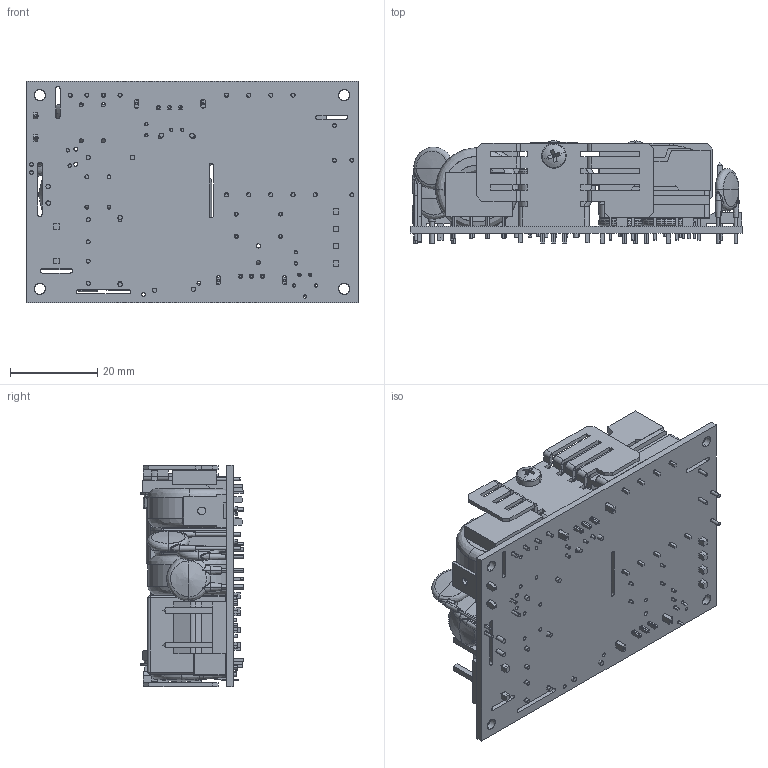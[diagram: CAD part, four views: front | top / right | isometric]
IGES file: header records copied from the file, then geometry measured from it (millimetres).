
Start section: SolidWorks IGES file using analytic representation for surfaces
Global section: file name: C:\Documents and Settings\behzar\Desktop\BEHZAR\PROJECTS\CURRENT-2010\SW-MODELS\WORKING\WS-ECS45\ECS45 12V-48V.IGS; native system: SolidWorks 2010; preprocessor: SolidWorks 2010; author: BEHZAR; date: 100628.160618; units: inch
Bounding box: 76.2 x 23.5 x 50.8 mm (x, y, z)
Surface area: 35187.6 mm2 (no closed solid volume)
Topology: 0 solids, 0 shells, 1811 faces, 17102 edges, 17057 vertices
Faces by surface type: bspline 1124, revolution 687
